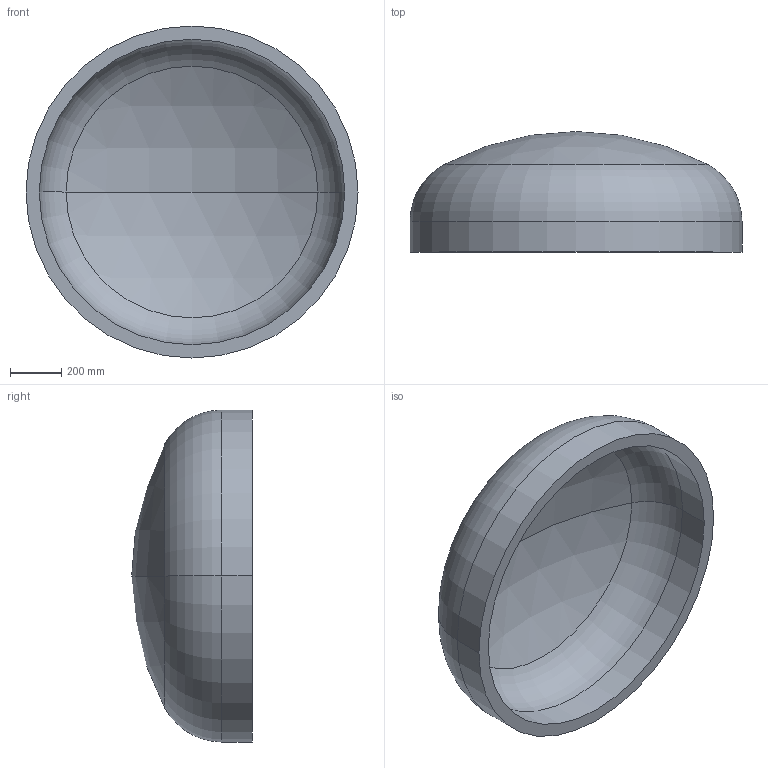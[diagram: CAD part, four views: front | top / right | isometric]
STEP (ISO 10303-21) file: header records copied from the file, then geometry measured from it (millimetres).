
FILE_DESCRIPTION (( 'STEP AP203' ), '1' );
FILE_NAME ('DIN 28013 Korbbogenform_-_Boden DIN 28013 - 1300 x 120 - I - s=52.step', '2016-07-01T09:54:46', ( '' ), ( '' ), 'SwSTEP 2.0', 'SolidWorks 2013', '' );
FILE_SCHEMA (( 'CONFIG_CONTROL_DESIGN' ));
Length unit declared in the file: millimetre
Products named in the file (1): DIN 28013 Korbbogenform_-_Boden DIN 28013 - 1300 x 120 - I - s=52
Bounding box: 1300 x 472.27 x 1300 mm (x, y, z)
Volume: 115211486.8 mm3; surface area: 4640749.9 mm2
Topology: 1 solids, 1 shells, 13 faces, 24 edges, 14 vertices
Faces by surface type: torus 4, cylinder 4, sphere 4, plane 1
Entity records: 407 total; most frequent: DIRECTION 72, CARTESIAN_POINT 52, ORIENTED_EDGE 48, AXIS2_PLACEMENT_3D 34, EDGE_CURVE 24, CIRCLE 20, EDGE_LOOP 14, VERTEX_POINT 14
